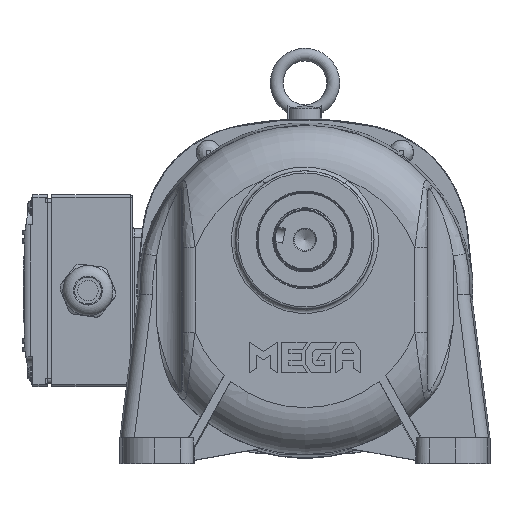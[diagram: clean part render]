
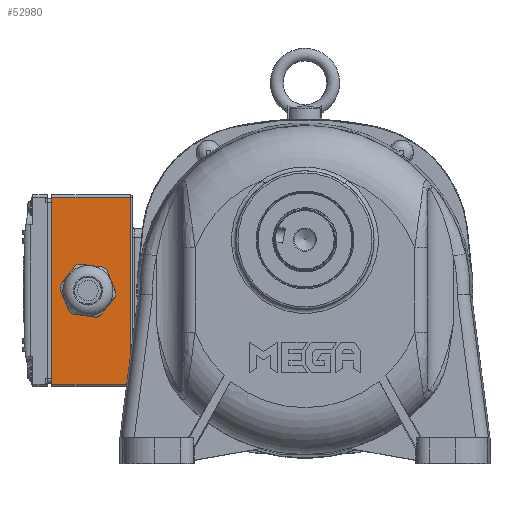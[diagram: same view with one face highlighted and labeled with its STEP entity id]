
A CAD part, top view. The second image highlights one B-rep face of the part: STEP entity #52980.
In plain terms, the highlighted planar face has unit normal (0, 0, 1).
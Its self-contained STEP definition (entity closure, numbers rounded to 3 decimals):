
#1381=FACE_BOUND('',#6136,.T.);
#1768=PLANE('',#56440);
#2996=FACE_OUTER_BOUND('',#6135,.T.);
#6135=EDGE_LOOP('',(#34612,#34613,#34614,#34615));
#6136=EDGE_LOOP('',(#34616,#34617,#34618,#34619,#34620,#34621,#34622,#34623,
#34624,#34625,#34626,#34627));
#9065=CIRCLE('',#55822,13.);
#9067=CIRCLE('',#55825,13.);
#9069=CIRCLE('',#55828,13.);
#9071=CIRCLE('',#55831,13.);
#9073=CIRCLE('',#55834,13.);
#9075=CIRCLE('',#55837,13.);
#13731=LINE('',#75682,#16818);
#13760=LINE('',#75802,#16847);
#13761=LINE('',#75804,#16848);
#13762=LINE('',#75806,#16849);
#13763=LINE('',#75808,#16850);
#13764=LINE('',#75810,#16851);
#14353=LINE('',#77904,#17440);
#14355=LINE('',#77919,#17442);
#14357=LINE('',#77925,#17444);
#14358=LINE('',#77926,#17445);
#16818=VECTOR('',#61443,10.);
#16847=VECTOR('',#61554,10.);
#16848=VECTOR('',#61557,10.);
#16849=VECTOR('',#61560,10.);
#16850=VECTOR('',#61563,10.);
#16851=VECTOR('',#61566,10.);
#17440=VECTOR('',#63245,10.);
#17442=VECTOR('',#63267,10.);
#17444=VECTOR('',#63273,10.);
#17445=VECTOR('',#63274,10.);
#19909=VERTEX_POINT('',#75628);
#19911=VERTEX_POINT('',#75632);
#19913=VERTEX_POINT('',#75637);
#19915=VERTEX_POINT('',#75641);
#19917=VERTEX_POINT('',#75646);
#19919=VERTEX_POINT('',#75650);
#19921=VERTEX_POINT('',#75655);
#19923=VERTEX_POINT('',#75659);
#19925=VERTEX_POINT('',#75664);
#19927=VERTEX_POINT('',#75668);
#19929=VERTEX_POINT('',#75673);
#19931=VERTEX_POINT('',#75677);
#20560=VERTEX_POINT('',#77900);
#20561=VERTEX_POINT('',#77902);
#20564=VERTEX_POINT('',#77918);
#20566=VERTEX_POINT('',#77924);
#24859=EDGE_CURVE('',#19909,#19911,#9065,.T.);
#24863=EDGE_CURVE('',#19913,#19915,#9067,.T.);
#24867=EDGE_CURVE('',#19917,#19919,#9069,.T.);
#24871=EDGE_CURVE('',#19921,#19923,#9071,.T.);
#24875=EDGE_CURVE('',#19925,#19927,#9073,.T.);
#24879=EDGE_CURVE('',#19929,#19931,#9075,.T.);
#24881=EDGE_CURVE('',#19931,#19909,#13731,.T.);
#24937=EDGE_CURVE('',#19911,#19913,#13760,.T.);
#24938=EDGE_CURVE('',#19927,#19929,#13761,.T.);
#24939=EDGE_CURVE('',#19923,#19925,#13762,.T.);
#24940=EDGE_CURVE('',#19919,#19921,#13763,.T.);
#24941=EDGE_CURVE('',#19915,#19917,#13764,.T.);
#25819=EDGE_CURVE('',#20561,#20560,#14353,.T.);
#25826=EDGE_CURVE('',#20560,#20564,#14355,.T.);
#25829=EDGE_CURVE('',#20566,#20561,#14357,.T.);
#25830=EDGE_CURVE('',#20566,#20564,#14358,.T.);
#34612=ORIENTED_EDGE('',*,*,#25819,.F.);
#34613=ORIENTED_EDGE('',*,*,#25829,.F.);
#34614=ORIENTED_EDGE('',*,*,#25830,.T.);
#34615=ORIENTED_EDGE('',*,*,#25826,.F.);
#34616=ORIENTED_EDGE('',*,*,#24879,.T.);
#34617=ORIENTED_EDGE('',*,*,#24881,.T.);
#34618=ORIENTED_EDGE('',*,*,#24859,.T.);
#34619=ORIENTED_EDGE('',*,*,#24937,.T.);
#34620=ORIENTED_EDGE('',*,*,#24863,.T.);
#34621=ORIENTED_EDGE('',*,*,#24941,.T.);
#34622=ORIENTED_EDGE('',*,*,#24867,.T.);
#34623=ORIENTED_EDGE('',*,*,#24940,.T.);
#34624=ORIENTED_EDGE('',*,*,#24871,.T.);
#34625=ORIENTED_EDGE('',*,*,#24939,.T.);
#34626=ORIENTED_EDGE('',*,*,#24875,.T.);
#34627=ORIENTED_EDGE('',*,*,#24938,.T.);
#52980=ADVANCED_FACE('',(#2996,#1381),#1768,.T.);
#55822=AXIS2_PLACEMENT_3D('',#75634,#61398,#61399);
#55825=AXIS2_PLACEMENT_3D('',#75643,#61406,#61407);
#55828=AXIS2_PLACEMENT_3D('',#75652,#61414,#61415);
#55831=AXIS2_PLACEMENT_3D('',#75661,#61422,#61423);
#55834=AXIS2_PLACEMENT_3D('',#75670,#61430,#61431);
#55837=AXIS2_PLACEMENT_3D('',#75679,#61438,#61439);
#56440=AXIS2_PLACEMENT_3D('',#77923,#63271,#63272);
#61398=DIRECTION('center_axis',(0.,0.,
-1.));
#61399=DIRECTION('ref_axis',(-0.378,0.926,0.));
#61406=DIRECTION('center_axis',(0.,0.,
-1.));
#61407=DIRECTION('ref_axis',(-0.378,0.926,0.));
#61414=DIRECTION('center_axis',(0.,0.,
-1.));
#61415=DIRECTION('ref_axis',(-0.378,0.926,0.));
#61422=DIRECTION('center_axis',(0.,0.,
-1.));
#61423=DIRECTION('ref_axis',(-0.378,0.926,0.));
#61430=DIRECTION('center_axis',(0.,0.,
-1.));
#61431=DIRECTION('ref_axis',(-0.378,0.926,0.));
#61438=DIRECTION('center_axis',(0.,0.,
-1.));
#61439=DIRECTION('ref_axis',(-0.378,0.926,0.));
#61443=DIRECTION('',(0.378,-0.926,0.));
#61554=DIRECTION('',(-0.613,-0.79,0.));
#61557=DIRECTION('',(0.991,-0.135,0.));
#61560=DIRECTION('',(0.613,0.79,0.));
#61563=DIRECTION('',(-0.378,0.926,0.));
#61566=DIRECTION('',(-0.991,0.135,0.));
#63245=DIRECTION('',(0.,-1.,0.));
#63267=DIRECTION('',(-1.,0.,0.));
#63271=DIRECTION('center_axis',(0.,0.,
1.));
#63272=DIRECTION('ref_axis',(1.,0.,0.));
#63273=DIRECTION('',(1.,0.,0.));
#63274=DIRECTION('',(0.,-1.,0.));
#75628=CARTESIAN_POINT('',(-98.804,-22.153,-168.5));
#75632=CARTESIAN_POINT('',(-99.155,-24.72,-168.5));
#75634=CARTESIAN_POINT('Origin',(-111.795,-21.685,-168.5));
#75637=CARTESIAN_POINT('',(-105.705,-33.17,-168.5));
#75641=CARTESIAN_POINT('',(-108.104,-34.149,-168.5));
#75643=CARTESIAN_POINT('Origin',(-111.795,-21.685,-168.5));
#75646=CARTESIAN_POINT('',(-118.697,-32.702,-168.5));
#75650=CARTESIAN_POINT('',(-120.744,-31.114,-168.5));
#75652=CARTESIAN_POINT('Origin',(-111.795,-21.685,-168.5));
#75655=CARTESIAN_POINT('',(-124.787,-21.216,-168.5));
#75659=CARTESIAN_POINT('',(-124.436,-18.649,-168.5));
#75661=CARTESIAN_POINT('Origin',(-111.795,-21.685,-168.5));
#75664=CARTESIAN_POINT('',(-117.886,-10.2,-168.5));
#75668=CARTESIAN_POINT('',(-115.487,-9.22,-168.5));
#75670=CARTESIAN_POINT('Origin',(-111.795,-21.685,-168.5));
#75673=CARTESIAN_POINT('',(-104.894,-10.668,-168.5));
#75677=CARTESIAN_POINT('',(-102.846,-12.255,-168.5));
#75679=CARTESIAN_POINT('Origin',(-111.795,-21.685,-168.5));
#75682=CARTESIAN_POINT('',(-105.906,-4.763,-168.5));
#75802=CARTESIAN_POINT('',(-89.689,-12.51,-168.5));
#75804=CARTESIAN_POINT('',(-99.513,-11.403,-168.5));
#75806=CARTESIAN_POINT('',(-104.229,7.418,-168.5));
#75808=CARTESIAN_POINT('',(-130.434,-7.391,-168.5));
#75810=CARTESIAN_POINT('',(-109.501,-33.958,-168.5));
#77900=CARTESIAN_POINT('',(-91.795,-65.685,-168.5));
#77902=CARTESIAN_POINT('',(-91.795,22.315,-168.5));
#77904=CARTESIAN_POINT('',(-91.795,0.815,-168.5));
#77918=CARTESIAN_POINT('',(-128.795,-65.685,-168.5));
#77919=CARTESIAN_POINT('',(-90.795,-65.685,-168.5));
#77923=CARTESIAN_POINT('Origin',(-90.795,23.315,-168.5));
#77924=CARTESIAN_POINT('',(-128.795,22.315,-168.5));
#77925=CARTESIAN_POINT('',(-90.795,22.315,-168.5));
#77926=CARTESIAN_POINT('',(-128.795,-66.685,-168.5));
